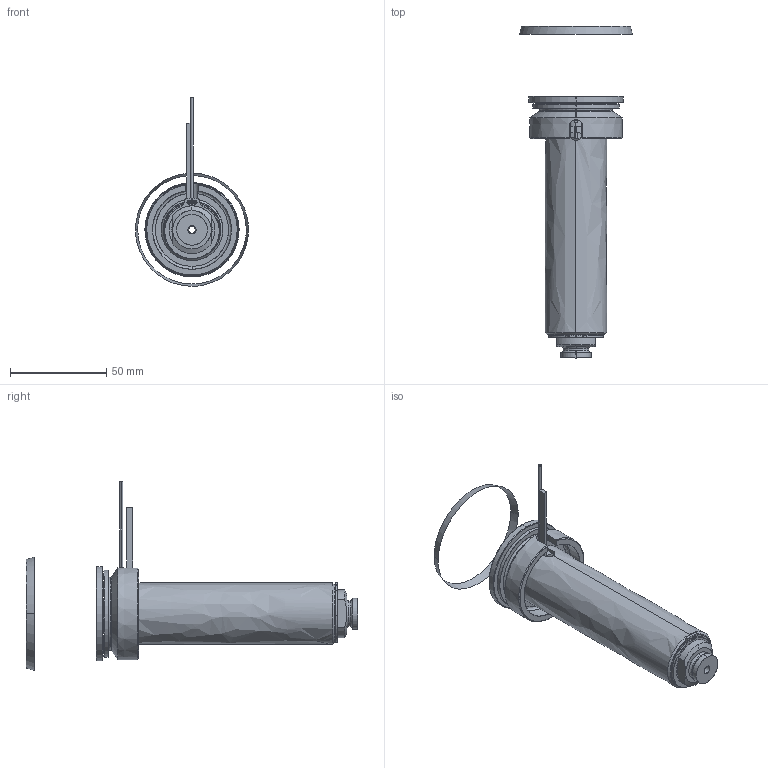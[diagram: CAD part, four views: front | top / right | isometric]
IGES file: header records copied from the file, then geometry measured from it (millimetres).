
Start section: SolidWorks IGES file using analytic representation for surfaces
Global section: file name: C:\Documents and Settings\ws-20\Desktop\TEMPORANEA\UGBE5003-S-A-3 [Ød-3.5 P-0 ØC-12].IGS; native system: SolidWorks 2012; preprocessor: SolidWorks 2012; author: ws-20; date: 120306.145604; units: millimetre
Bounding box: 58.79 x 172.44 x 98.01 mm (x, y, z)
Surface area: 51578.9 mm2 (no closed solid volume)
Topology: 0 solids, 0 shells, 111 faces, 2122 edges, 2122 vertices
Faces by surface type: revolution 68, bspline 43
